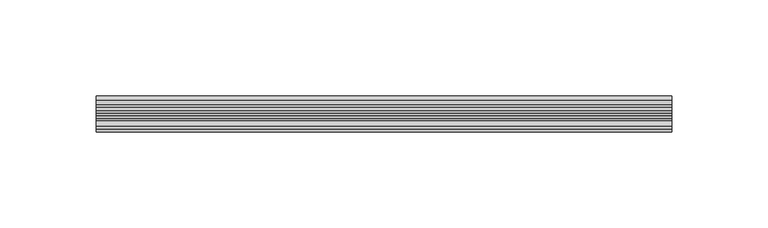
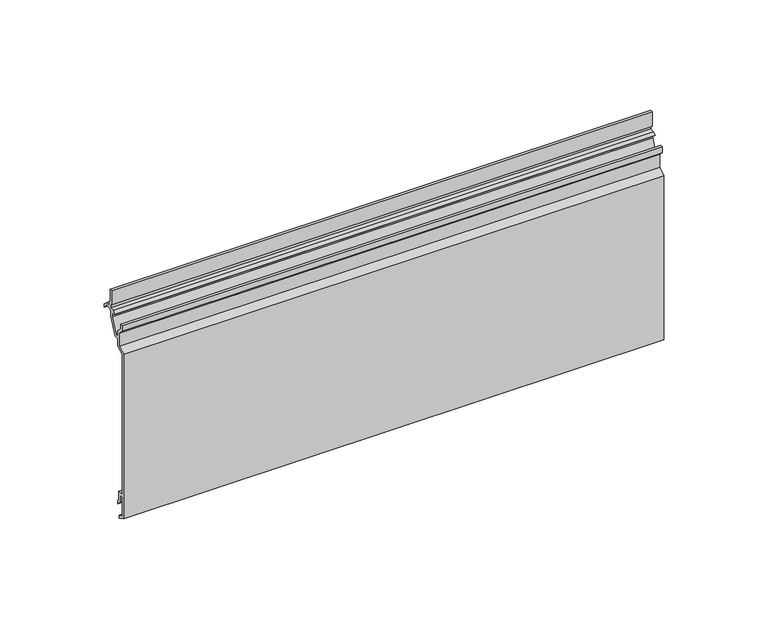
"""IFC4 building model written with IfcOpenShell, lengths in millimetres: plate geometry, FastPlank_P44V-V-Notch-4″-Plank-Horizontal : P44V-V-Notch-4″-Plank-Horizontal."""

import ifcopenshell
import ifcopenshell.guid

model = None  # the IFC model being written
_history = None  # IfcOwnerHistory: only IFC2X3 demands one
_inside = {}  # id of a spatial element -> (the spatial element, [elements in it])
_under = {}  # id of a project, library or spatial element -> (it, [spatial elements below it])
_declared = {}  # id of a project -> (the project, [libraries it declares])
_typed = {}  # id of a type object -> (the type object, [elements of that type])
_made_of = {}  # id of a material, layer set ... -> (it, [elements and type objects made of it])


def new_model(schema):
    """Start an empty IFC model of exactly this schema.

    Asked for "IFC4X3", IfcOpenShell would pick the latest addendum, in which some entities
    have other attributes; the version numbers below select the first issue.
    IFC2X3 requires an IfcOwnerHistory on every rooted entity: one is made here for all.
    """
    global model, _history
    if schema == "IFC4X3":
        model = ifcopenshell.file(schema_version=(4, 3, 0, 0))
    else:
        model = ifcopenshell.file(schema=schema)
    _inside.clear()
    _under.clear()
    _declared.clear()
    _typed.clear()
    _made_of.clear()
    _history = None
    if model.schema == "IFC2X3":
        org = make("IfcOrganization", Name="unknown")
        user = make(
            "IfcPersonAndOrganization",
            ThePerson=make("IfcPerson", FamilyName="unknown"),
            TheOrganization=org,
        )
        app = make(
            "IfcApplication",
            ApplicationDeveloper=org,
            Version="unknown",
            ApplicationFullName="unknown",
            ApplicationIdentifier="unknown",
        )
        _history = make(
            "IfcOwnerHistory",
            OwningUser=user,
            OwningApplication=app,
            ChangeAction="ADDED",
            CreationDate=0,
        )
    return model


def make(cls, **values):
    """One entity of the class cls with the attributes given. An attribute that is None is left unset."""
    return model.create_entity(
        cls, **{name: value for name, value in values.items() if value is not None}
    )


def rooted(cls, **values):
    """An entity with a GlobalId (a new one), such as an element, a storey or a relation."""
    return make(cls, GlobalId=ifcopenshell.guid.new(), OwnerHistory=_history, **values)


def si_unit(unit_type, name, prefix=None):
    """IfcSIUnit, for example si_unit("LENGTHUNIT", "METRE", prefix="MILLI")."""
    return make("IfcSIUnit", UnitType=unit_type, Prefix=prefix, Name=name)


def assignment(units):
    """IfcUnitAssignment: the units of a project."""
    return None if units is None else make("IfcUnitAssignment", Units=units)


def point(xyz):
    """IfcCartesianPoint."""
    return None if xyz is None else make("IfcCartesianPoint", Coordinates=xyz)


def direction(xyz):
    """IfcDirection."""
    return None if xyz is None else make("IfcDirection", DirectionRatios=xyz)


def frame(location, z_axis=None, x_axis=None):
    """IfcAxis2Placement3D, a coordinate frame: its origin and axes. An axis left out is left unset."""
    return make(
        "IfcAxis2Placement3D",
        Location=point(location),
        Axis=direction(z_axis),
        RefDirection=direction(x_axis),
    )


def origin():
    """The frame at (0, 0, 0) with its axes left unset."""
    return frame((0.0, 0.0, 0.0))


def place(relative_to, where):
    """IfcLocalPlacement: puts the frame where relative to a parent placement (None: the world)."""
    return make(
        "IfcLocalPlacement", PlacementRelTo=relative_to, RelativePlacement=where
    )


def context(
    kind, dimensions, precision=None, world=None, true_north=None, identifier=None
):
    """IfcGeometricRepresentationContext, for example the 3D "Model" context."""
    return make(
        "IfcGeometricRepresentationContext",
        ContextIdentifier=identifier,
        ContextType=kind,
        CoordinateSpaceDimension=dimensions,
        Precision=precision,
        WorldCoordinateSystem=world,
        TrueNorth=true_north,
    )


def project(units=None, contexts=None):
    """IfcProject with its units and contexts."""
    return rooted(
        "IfcProject",
        Name="project",
        RepresentationContexts=contexts,
        UnitsInContext=assignment(units),
    )


def spatial(cls, under=None, at=None, **own):
    """A site, building, storey or space (cls), placed at a placement, below another one or the project."""
    s = rooted(cls, ObjectPlacement=at, **own)
    if under is not None:
        _under.setdefault(under.id(), (under, []))[1].append(s)
    return s


def polyline(points):
    """IfcPolyline through the points."""
    return make("IfcPolyline", Points=[point(p) for p in points])


def outline(outer, holes=None, kind="AREA"):
    """IfcArbitraryClosedProfileDef: a profile drawn as a closed curve; with holes, ...WithVoids."""
    if holes is None:
        return make("IfcArbitraryClosedProfileDef", ProfileType=kind, OuterCurve=outer)
    return make(
        "IfcArbitraryProfileDefWithVoids",
        ProfileType=kind,
        OuterCurve=outer,
        InnerCurves=holes,
    )


def extrude(swept, where, along, depth):
    """IfcExtrudedAreaSolid: the profile swept, set in the frame where, extruded along a direction by depth."""
    return make(
        "IfcExtrudedAreaSolid",
        SweptArea=swept,
        Position=where,
        ExtrudedDirection=direction(along),
        Depth=depth,
    )


def shape(context_of_items, identifier, shape_type, items):
    """IfcShapeRepresentation: the items that make up one representation, for example the "Body"."""
    return make(
        "IfcShapeRepresentation",
        ContextOfItems=context_of_items,
        RepresentationIdentifier=identifier,
        RepresentationType=shape_type,
        Items=items,
    )


def source(mapping_origin, context_of_items, identifier, shape_type, items):
    """IfcRepresentationMap: a shape defined once, which mapped items show again and again."""
    return make(
        "IfcRepresentationMap",
        MappingOrigin=mapping_origin,
        MappedRepresentation=shape(context_of_items, identifier, shape_type, items),
    )


def transform(
    local_origin,
    x_axis=None,
    y_axis=None,
    z_axis=None,
    scale=None,
    scale2=None,
    scale3=None,
    uniform=True,
):
    """IfcCartesianTransformationOperator3D, or its non-uniform kind. x_axis, y_axis, z_axis: its Axis1, 2, 3."""
    if uniform:
        return make(
            "IfcCartesianTransformationOperator3D",
            Axis1=direction(x_axis),
            Axis2=direction(y_axis),
            LocalOrigin=point(local_origin),
            Scale=scale,
            Axis3=direction(z_axis),
        )
    return make(
        "IfcCartesianTransformationOperator3DnonUniform",
        Axis1=direction(x_axis),
        Axis2=direction(y_axis),
        LocalOrigin=point(local_origin),
        Scale=scale,
        Axis3=direction(z_axis),
        Scale2=scale2,
        Scale3=scale3,
    )


def mapped(mapping_source, mapping_target):
    """IfcMappedItem: shows the shape of a source again, moved by a transform."""
    return make(
        "IfcMappedItem", MappingSource=mapping_source, MappingTarget=mapping_target
    )


def made_of(thing, what):
    """Note that an element or type object is made of a material, layer set ...; save() writes the relation."""
    if what is not None:
        _made_of.setdefault(what.id(), (what, []))[1].append(thing)
    return thing


def element(
    cls,
    number,
    at=None,
    inside=None,
    cuts=None,
    type_object=None,
    material=None,
    context=None,
    identifier="Body",
    shape_type=None,
    held_by="IfcProductDefinitionShape",
    body=None,
    shapes=None,
    **own,
):
    """One element of the class cls, such as IfcWall. Its Tag is "e" and its number.

    at: its placement. inside: the storey or other place that contains it. cuts: it is an
    opening in that element (IfcRelVoidsElement). A single representation is given by context,
    identifier, shape_type and body (its items); several are given by shapes. held_by: the class
    of the entity that holds the representations. save() writes the other relations.
    """
    e = rooted(cls, Tag="e%d" % number, ObjectPlacement=at, **own)
    if body is not None:
        shapes = [shape(context, identifier, shape_type, body)]
    if shapes is not None:
        e.Representation = make(held_by, Representations=shapes)
    if inside is not None:
        _inside.setdefault(inside.id(), (inside, []))[1].append(e)
    if cuts is not None:
        rooted(
            "IfcRelVoidsElement", RelatingBuildingElement=cuts, RelatedOpeningElement=e
        )
    if type_object is not None:
        _typed.setdefault(type_object.id(), (type_object, []))[1].append(e)
    return made_of(e, material)


def aggregate(whole, parts):
    """IfcRelAggregates: a whole, such as a stair, and the parts it consists of."""
    return rooted("IfcRelAggregates", RelatingObject=whole, RelatedObjects=parts)


def save(model, path):
    """Write the relations noted so far, then the file.

    IfcRelAggregates (storeys below a building ...), IfcRelContainedInSpatialStructure (elements
    in a storey), IfcRelDefinesByType, IfcRelAssociatesMaterial and IfcRelDeclares: one each for
    every whole, place, type object, material and project.
    """
    for whole, parts in _under.values():
        aggregate(whole, parts)
    for where, things in _inside.values():
        rooted(
            "IfcRelContainedInSpatialStructure",
            RelatedElements=things,
            RelatingStructure=where,
        )
    for kind, things in _typed.values():
        rooted("IfcRelDefinesByType", RelatedObjects=things, RelatingType=kind)
    for what, things in _made_of.values():
        rooted("IfcRelAssociatesMaterial", RelatedObjects=things, RelatingMaterial=what)
    for by, libraries in _declared.values():
        rooted("IfcRelDeclares", RelatingContext=by, RelatedDefinitions=libraries)
    model.write(path)


def plate_c9c5d80b(model_context):
    return source(origin(), model_context, "Body", "SweptSolid", [
        extrude(outline(polyline([(-18.8745946, 2.3957023), (-18.8745946, 98.7040846), (-14.7246029, 101.1000834), (-14.7246029, 108.6147973), (-17.3745976, 111.264792), (-17.3745976, 114.5726601), (-15.8746006, 114.5726601), (-15.8746006, 111.8861111), (-13.2246059, 109.2361164), (-13.2246059, 106.0486482), (-11.708109, 106.0486482), (-8.0338609, 114.2522203), (-8.0338609, 116.4558186), (-9.7191932, 116.4558186), (-10.3184198, 117.2227937), (-8.8232117, 118.3909783), (-6.2821578, 118.3909783), (-6.2821578, 120.8578751), (-7.5321553, 120.8578751), (-7.5321553, 129.1909904), (-6.0321583, 129.1909904), (-6.0321583, 122.3427309), (-4.7821608, 121.2437723), (-4.7821608, 118.9150861), (-2.1334241, 118.9150861), (0.0, 117.0394467), (0.0, 114.9213563), (-2.6937325, 117.6150887), (-5.0811989, 117.6150887), (-6.5338639, 116.7763922), (-6.5338639, 113.9609184), (-10.7243127, 104.5739676), (-13.2246059, 104.5739676), (-13.2246059, 100.4649994), (-17.5745972, 97.9535307), (-17.5745972, 15.4863039), (-14.0246043, 15.4863039), (-14.0246043, 10.5877112), (-13.3162936, 9.8794005), (-13.3162936, 7.7608499), (-15.5246013, 9.9691576), (-15.5246013, 13.9827581), (-17.3745976, 13.9827581), (-17.3745976, 3.2617795), (-14.7246029, 1.7319938), (-14.7246029, 0.0), (-18.8745946, 2.3957023)])), frame((-149.8797454, 0.0, 0.0), z_axis=(1.0, 0.0, 0.0), x_axis=(0.0, 1.0, 0.0)), (0.0, 0.0, 1.0), 299.7594908),
    ])


if __name__ == "__main__":
    model = new_model("IFC4")
    model_context = context("Model", 3, world=origin())
    ifc_project = project(units=[si_unit("LENGTHUNIT", "METRE", prefix="MILLI")], contexts=[model_context])
    site = spatial("IfcSite", under=ifc_project)
    building = spatial("IfcBuilding", under=site)
    placement = place(None, origin())
    plate_shape = plate_c9c5d80b(model_context)
    element("IfcPlate", 1, ObjectType="FastPlank_P44V-V-Notch-4″-Plank-Horizontal : P44V-V-Notch-4″-Plank-Horizontal", at=placement, inside=building, context=model_context, shape_type="MappedRepresentation", body=[
        mapped(plate_shape, transform((0.0, 0.0, 0.0), x_axis=(1.0, 0.0, 0.0), y_axis=(0.0, 1.0, 0.0), z_axis=(0.0, 0.0, 1.0))),
    ])
    save(model, "model.ifc")
